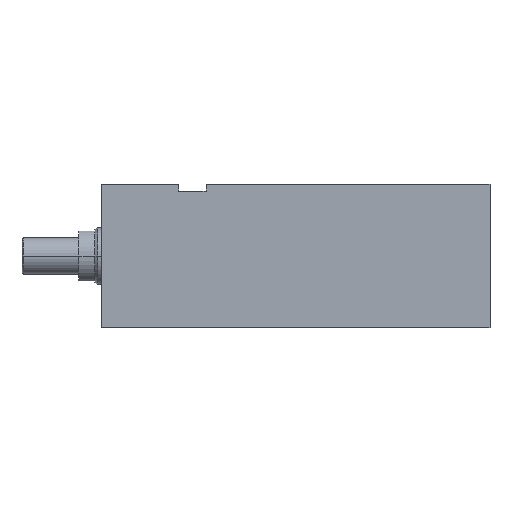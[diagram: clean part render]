
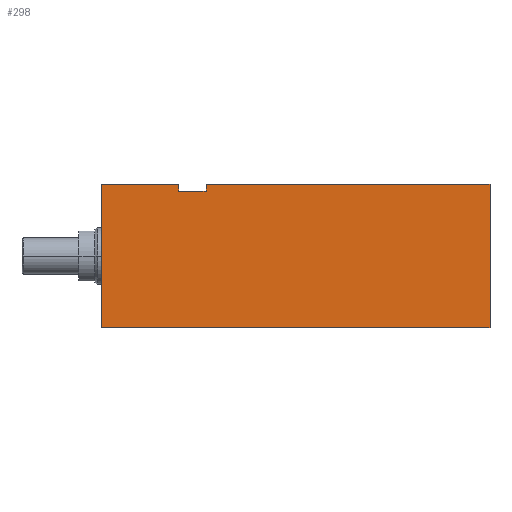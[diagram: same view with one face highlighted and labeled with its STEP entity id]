
A CAD part, left-side view. The second image highlights one B-rep face of the part: STEP entity #298.
In plain terms, the highlighted planar face has unit normal (-1, 0, 0).
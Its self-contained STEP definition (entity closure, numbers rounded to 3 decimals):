
#14 = VERTEX_POINT ( 'NONE', #2064 ) ;
#29 = CARTESIAN_POINT ( 'NONE',  ( -42.5, 71., 31.5 ) ) ;
#54 = LINE ( 'NONE', #2630, #773 ) ;
#109 = LINE ( 'NONE', #3004, #750 ) ;
#147 = VECTOR ( 'NONE', #2247, 1000. ) ;
#157 = DIRECTION ( 'NONE',  ( 0., 0., 1. ) ) ;
#166 = EDGE_CURVE ( 'NONE', #393, #2710, #2768, .T. ) ;
#170 = CARTESIAN_POINT ( 'NONE',  ( -42.5, 71., -31.5 ) ) ;
#211 = DIRECTION ( 'NONE',  ( 0., 0., 1. ) ) ;
#216 = VECTOR ( 'NONE', #1398, 1000. ) ;
#244 = PLANE ( 'NONE',  #1124 ) ;
#247 = ORIENTED_EDGE ( 'NONE', *, *, #645, .F. ) ;
#259 = EDGE_CURVE ( 'NONE', #1081, #742, #2548, .T. ) ;
#283 = LINE ( 'NONE', #2847, #216 ) ;
#298 = ADVANCED_FACE ( 'NONE', ( #3112 ), #244, .F. ) ;
#393 = VERTEX_POINT ( 'NONE', #1463 ) ;
#405 = ORIENTED_EDGE ( 'NONE', *, *, #259, .T. ) ;
#460 = DIRECTION ( 'NONE',  ( 0., 0., 1. ) ) ;
#484 = EDGE_CURVE ( 'NONE', #2710, #14, #1281, .T. ) ;
#536 = CARTESIAN_POINT ( 'NONE',  ( -42.5, 71., -31.5 ) ) ;
#600 = VECTOR ( 'NONE', #460, 1000. ) ;
#638 = VECTOR ( 'NONE', #1234, 1000. ) ;
#645 = EDGE_CURVE ( 'NONE', #3051, #2770, #109, .T. ) ;
#742 = VERTEX_POINT ( 'NONE', #1506 ) ;
#750 = VECTOR ( 'NONE', #1313, 1000. ) ;
#773 = VECTOR ( 'NONE', #1169, 1000. ) ;
#900 = ORIENTED_EDGE ( 'NONE', *, *, #1712, .F. ) ;
#951 = DIRECTION ( 'NONE',  ( 1., 0., 0. ) ) ;
#965 = ORIENTED_EDGE ( 'NONE', *, *, #166, .F. ) ;
#1064 = CARTESIAN_POINT ( 'NONE',  ( -42.5, 125., 31.5 ) ) ;
#1081 = VERTEX_POINT ( 'NONE', #1675 ) ;
#1120 = ORIENTED_EDGE ( 'NONE', *, *, #484, .F. ) ;
#1124 = AXIS2_PLACEMENT_3D ( 'NONE', #170, #951, #2169 ) ;
#1169 = DIRECTION ( 'NONE',  ( 0., -1., 0. ) ) ;
#1199 = CARTESIAN_POINT ( 'NONE',  ( -42.5, 171., -31.5 ) ) ;
#1234 = DIRECTION ( 'NONE',  ( 0., -1., 0. ) ) ;
#1281 = LINE ( 'NONE', #29, #638 ) ;
#1308 = ORIENTED_EDGE ( 'NONE', *, *, #2590, .T. ) ;
#1313 = DIRECTION ( 'NONE',  ( 0., 0., 1. ) ) ;
#1374 = CARTESIAN_POINT ( 'NONE',  ( -42.5, 0., -31.5 ) ) ;
#1398 = DIRECTION ( 'NONE',  ( 0., -1., 0. ) ) ;
#1463 = CARTESIAN_POINT ( 'NONE',  ( -42.5, 125., 28.5 ) ) ;
#1506 = CARTESIAN_POINT ( 'NONE',  ( -42.5, 137., 31.5 ) ) ;
#1584 = CARTESIAN_POINT ( 'NONE',  ( -42.5, 171., 31.5 ) ) ;
#1629 = VECTOR ( 'NONE', #157, 1000. ) ;
#1667 = VERTEX_POINT ( 'NONE', #1374 ) ;
#1675 = CARTESIAN_POINT ( 'NONE',  ( -42.5, 137., 28.5 ) ) ;
#1712 = EDGE_CURVE ( 'NONE', #2770, #742, #283, .T. ) ;
#1771 = EDGE_CURVE ( 'NONE', #1081, #393, #54, .T. ) ;
#1845 = CARTESIAN_POINT ( 'NONE',  ( -42.5, 125., 28.5 ) ) ;
#1901 = CARTESIAN_POINT ( 'NONE',  ( -42.5, 0., -31.5 ) ) ;
#2058 = LINE ( 'NONE', #1901, #2208 ) ;
#2064 = CARTESIAN_POINT ( 'NONE',  ( -42.5, 0., 31.5 ) ) ;
#2084 = LINE ( 'NONE', #536, #147 ) ;
#2116 = ORIENTED_EDGE ( 'NONE', *, *, #2995, .T. ) ;
#2169 = DIRECTION ( 'NONE',  ( 0., 0., -1. ) ) ;
#2205 = EDGE_LOOP ( 'NONE', ( #1120, #965, #2972, #405, #900, #247, #1308, #2116 ) ) ;
#2208 = VECTOR ( 'NONE', #211, 1000. ) ;
#2247 = DIRECTION ( 'NONE',  ( 0., -1., 0. ) ) ;
#2548 = LINE ( 'NONE', #2890, #600 ) ;
#2590 = EDGE_CURVE ( 'NONE', #3051, #1667, #2084, .T. ) ;
#2630 = CARTESIAN_POINT ( 'NONE',  ( -42.5, 137., 28.5 ) ) ;
#2710 = VERTEX_POINT ( 'NONE', #1064 ) ;
#2768 = LINE ( 'NONE', #1845, #1629 ) ;
#2770 = VERTEX_POINT ( 'NONE', #1584 ) ;
#2847 = CARTESIAN_POINT ( 'NONE',  ( -42.5, 71., 31.5 ) ) ;
#2890 = CARTESIAN_POINT ( 'NONE',  ( -42.5, 137., 28.5 ) ) ;
#2972 = ORIENTED_EDGE ( 'NONE', *, *, #1771, .F. ) ;
#2995 = EDGE_CURVE ( 'NONE', #1667, #14, #2058, .T. ) ;
#3004 = CARTESIAN_POINT ( 'NONE',  ( -42.5, 171., -31.5 ) ) ;
#3051 = VERTEX_POINT ( 'NONE', #1199 ) ;
#3112 = FACE_OUTER_BOUND ( 'NONE', #2205, .T. ) ;
